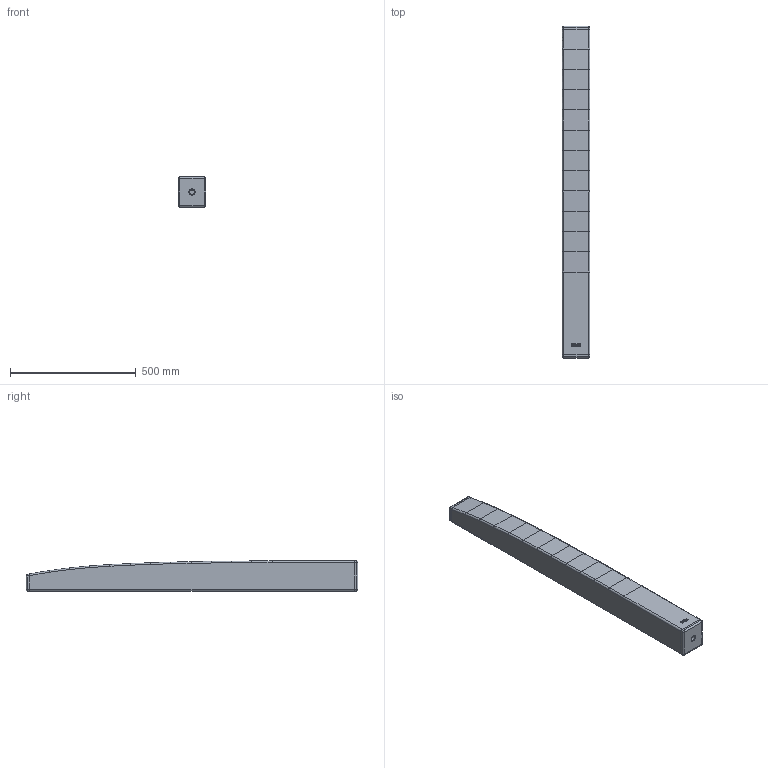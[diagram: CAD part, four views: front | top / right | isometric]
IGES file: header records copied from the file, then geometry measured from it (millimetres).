
Start section: SolidWorks IGES file using analytic representation for surfaces
Global section: file name: C:\Documents and Settings\Administrator\My Documents\Michl\SolidWorks\3d_Dateien_Homepage\Neue-Produkte\SEEBURG_Monopod-L16j.IGS; native system: SolidWorks 2009; preprocessor: SolidWorks 2009; author: Administrator; date: 140404.090704; units: millimetre
Bounding box: 110 x 1320 x 120 mm (x, y, z)
Surface area: 1061157.2 mm2 (no closed solid volume)
Topology: 0 solids, 0 shells, 521 faces, 5210 edges, 5202 vertices
Faces by surface type: bspline 419, revolution 102
